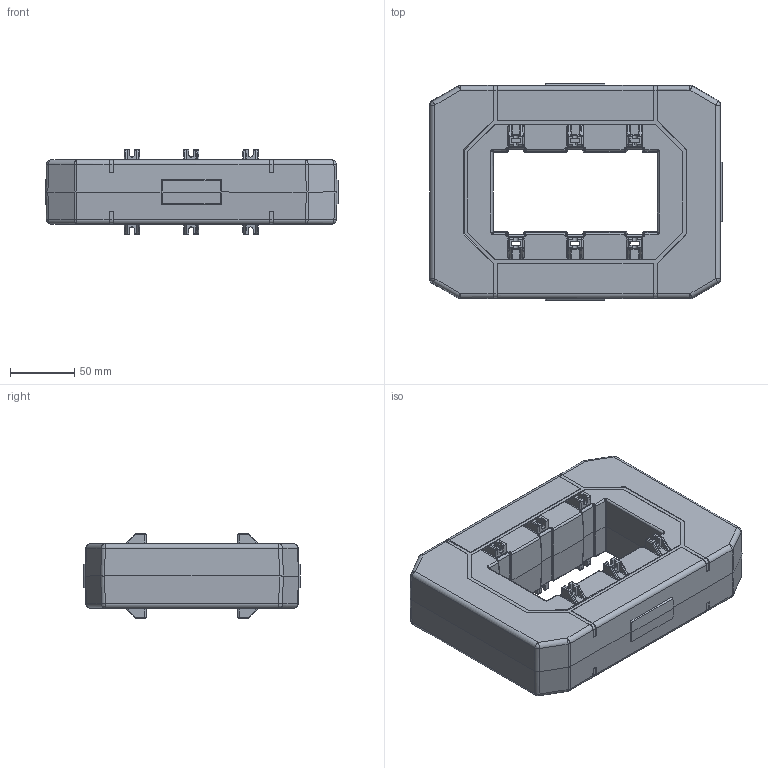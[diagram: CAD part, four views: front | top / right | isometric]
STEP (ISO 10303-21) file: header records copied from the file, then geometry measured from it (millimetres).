
FILE_DESCRIPTION (( 'STEP AP203' ), '1' );
FILE_NAME ('CT125-750-5-0,5-10.STEP', '2022-12-02T13:47:30', ( '' ), ( '' ), 'SwSTEP 2.0', 'SolidWorks 2022', '' );
FILE_SCHEMA (( 'CONFIG_CONTROL_DESIGN' ));
Products named in the file (1): CT125-750-5-0,5-10
Bounding box: 227.1 x 168.2 x 66 mm (x, y, z)
Surface area: 126044.9 mm2 (no closed solid volume)
Topology: 0 solids, 12 shells, 1262 faces, 3189 edges, 1895 vertices
Faces by surface type: cylinder 516, plane 438, bspline 308
Entity records: 90422 total; most frequent: CARTESIAN_POINT 65411, ORIENTED_EDGE 6122, DIRECTION 3377, EDGE_CURVE 3141, VERTEX_POINT 1895, B_SPLINE_CURVE_WITH_KNOTS 1721, EDGE_LOOP 1281, LINE 1263
